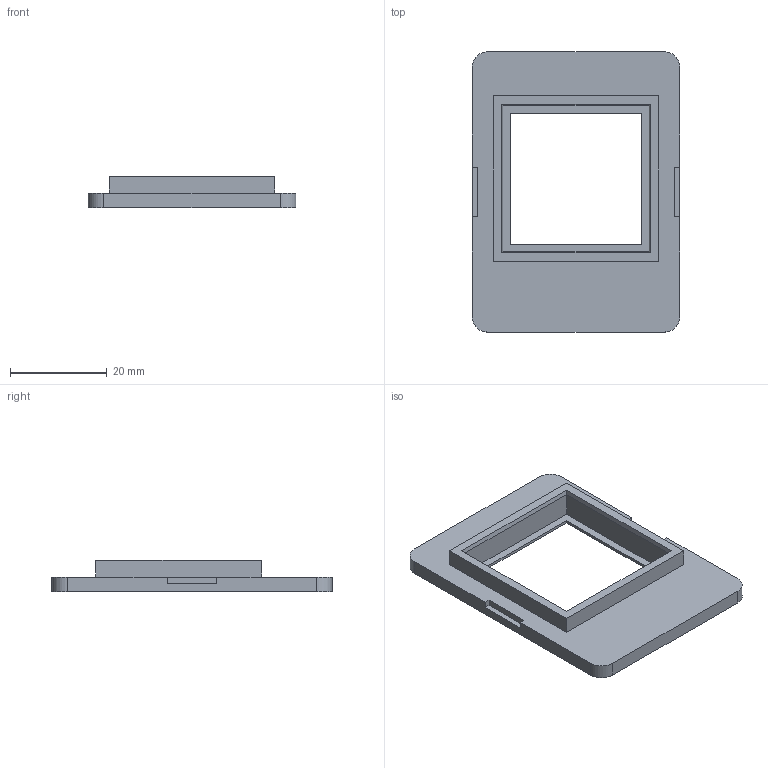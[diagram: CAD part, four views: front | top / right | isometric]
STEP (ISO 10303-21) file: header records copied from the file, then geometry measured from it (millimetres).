
FILE_DESCRIPTION(('Open CASCADE Model'),'2;1');
FILE_NAME('Open CASCADE Shape Model','2026-08-25T22:11:23',('Author'),( 'Open CASCADE'),'Open CASCADE STEP processor 7.8','Open CASCADE 7.8' ,'Unknown');
FILE_SCHEMA(('AUTOMOTIVE_DESIGN { 1 0 10303 214 1 1 1 1 }'));
Length unit declared in the file: millimetre
Products named in the file (1): Open CASCADE STEP translator 7.8 2
Bounding box: 42.9 x 57.9 x 6.5 mm (x, y, z)
Volume: 5645.3 mm3; surface area: 5316.9 mm2
Topology: 1 solids, 1 shells, 36 faces, 92 edges, 60 vertices
Faces by surface type: plane 28, cylinder 4, bspline 4
Entity records: 2234 total; most frequent: CARTESIAN_POINT 469, DIRECTION 286, LINE 200, VECTOR 200, ORIENTED_EDGE 184, PCURVE 184, DEFINITIONAL_REPRESENTATION 184, EDGE_CURVE 92
